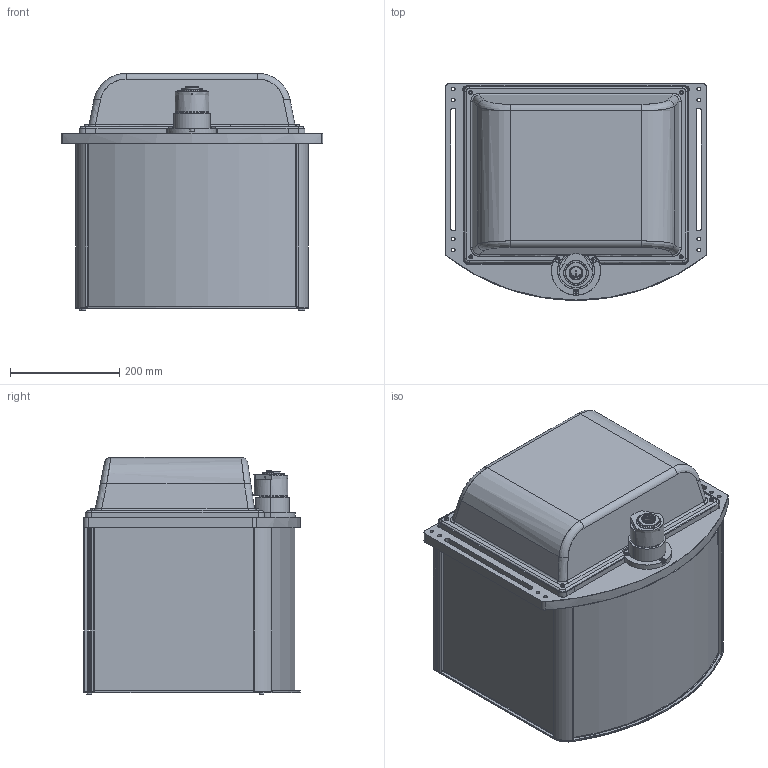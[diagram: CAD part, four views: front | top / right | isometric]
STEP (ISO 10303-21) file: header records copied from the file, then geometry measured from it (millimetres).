
FILE_DESCRIPTION(('LS-TCL-0349'),'2;1');
FILE_NAME('LS-TCL-0349.stp','2026-10-15T21:55:56',('LumaSpec Vision'),('LumaSpec Vision'),'LumaSpec Vision','LumaSpec Vision','');
FILE_SCHEMA(('AUTOMOTIVE_DESIGN { 1 0 10303 214 1 1 1 1 }'));
Length unit declared in the file: millimetre
Products named in the file (438): LumaSpec Vision
Assembly tree (437 placements, depth 2):
  LumaSpec Vision
    LumaSpec Vision
    LumaSpec Vision
    LumaSpec Vision
    LumaSpec Vision
    LumaSpec Vision
    LumaSpec Vision
    LumaSpec Vision
    LumaSpec Vision
    LumaSpec Vision
    LumaSpec Vision
    LumaSpec Vision
    LumaSpec Vision
    LumaSpec Vision
    LumaSpec Vision
    LumaSpec Vision
    LumaSpec Vision
    LumaSpec Vision
    LumaSpec Vision
    LumaSpec Vision
    LumaSpec Vision
    LumaSpec Vision
    LumaSpec Vision
    LumaSpec Vision
    LumaSpec Vision
    LumaSpec Vision
    LumaSpec Vision
    LumaSpec Vision
    LumaSpec Vision
    LumaSpec Vision
    LumaSpec Vision
    LumaSpec Vision
    LumaSpec Vision
    LumaSpec Vision
    LumaSpec Vision
    LumaSpec Vision
    LumaSpec Vision
    LumaSpec Vision
    LumaSpec Vision
    LumaSpec Vision
    LumaSpec Vision
    LumaSpec Vision
    LumaSpec Vision
    LumaSpec Vision
    LumaSpec Vision
    LumaSpec Vision
    LumaSpec Vision
    LumaSpec Vision
    LumaSpec Vision
    LumaSpec Vision
    LumaSpec Vision
    LumaSpec Vision
    LumaSpec Vision
    LumaSpec Vision
    LumaSpec Vision
    LumaSpec Vision
    LumaSpec Vision
    LumaSpec Vision
    LumaSpec Vision
    LumaSpec Vision
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Bounding box: 480 x 396.7 x 434.5 mm (x, y, z)
Surface area: 1187527.9 mm2 (no closed solid volume)
Topology: 0 solids, 437 shells, 437 faces, 6721 edges, 6718 vertices
Faces by surface type: bspline 249, revolution 188
Entity records: 113593 total; most frequent: CARTESIAN_POINT 44324, B_SPLINE_CURVE_WITH_KNOTS 11508, ORIENTED_EDGE 6718, EDGE_CURVE 6718, VERTEX_POINT 6718, SURFACE_CURVE 6718, PCURVE 6718, DEFINITIONAL_REPRESENTATION 6718
